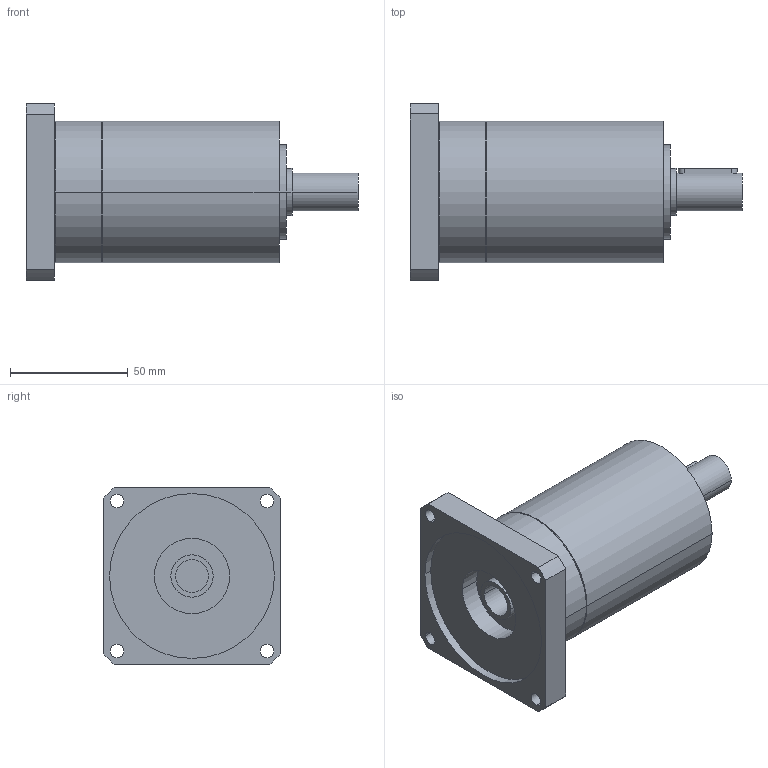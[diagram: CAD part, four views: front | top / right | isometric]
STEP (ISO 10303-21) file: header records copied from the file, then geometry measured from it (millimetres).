
FILE_DESCRIPTION(('CoCreate Modeling STEP Export'),'2;1');
FILE_NAME('GPR75_ig-9-12-16-20-24-30-36_16_B14_14_P24.stp','2014-08-25T16:03:34',(''),(''),'CoCreate Modeling STEP processor for AP214 (Solid Model)','CoCreate Modeling 16.00C 25-Feb-2009 (C) Parametric Technology GmbH','');
FILE_SCHEMA(('AUTOMOTIVE_DESIGN { 1 0 10303 214 1 1 1 1 }'));
Length unit declared in the file: millimetre
Products named in the file (2): GPR75_ig-9-12-16-20-24-30-36_16_B14_14_P24
Assembly tree (1 placements, depth 2):
  GPR75_ig-9-12-16-20-24-30-36_16_B14_14_P24
    GPR75_ig-9-12-16-20-24-30-36_16_B14_14_P24
Bounding box: 141 x 75 x 75 mm (x, y, z)
Volume: 321426.6 mm3; surface area: 43311.2 mm2
Topology: 1 solids, 1 shells, 73 faces, 197 edges, 139 vertices
Faces by surface type: cylinder 44, plane 23, cone 6
Entity records: 2019 total; most frequent: ORIENTED_EDGE 390, CARTESIAN_POINT 373, DIRECTION 272, EDGE_CURVE 195, VERTEX_POINT 139, AXIS2_PLACEMENT_3D 102, EDGE_LOOP 96, FACE_OUTER_BOUND 73
